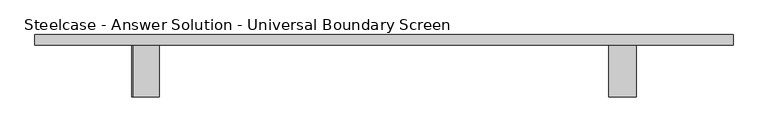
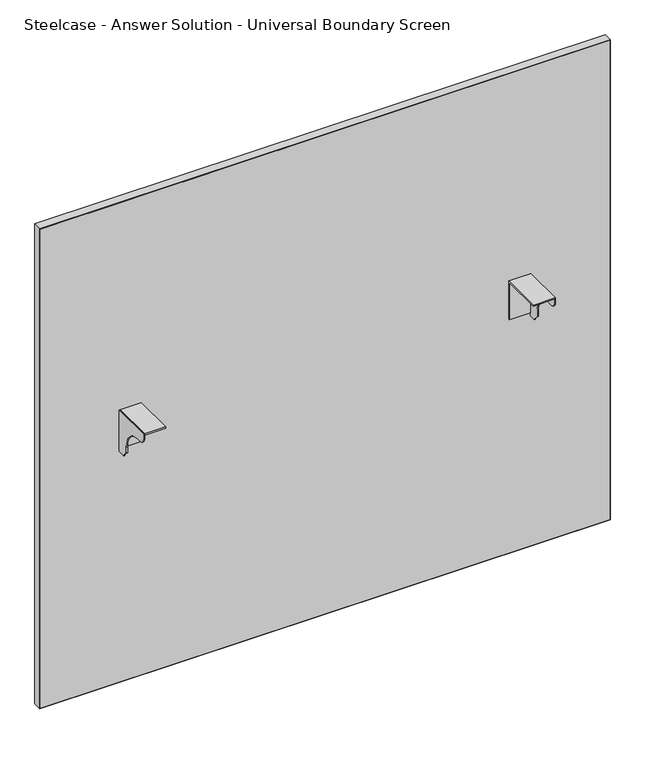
"""IFC4 building model written with IfcOpenShell, lengths in millimetres: furniture geometry, Steelcase - Answer Solution - Universal Boundary Screen : 48H x 54W."""

from ifc_helpers import new_model, si_unit, point, frame, frame_2d, origin, place, context, project, spatial, polyline, circle_curve, trimmed, segment, composite_curve, outline, extrude, source, transform, mapped, element, save


def steelcase_answer_solution_universal_boundary_screen_2fc7beb2(model_context):
    return source(origin(), model_context, "Body", "SweptSolid", [
        extrude(outline(polyline([(-103.1670434, 689.3558876), (-103.1670434, 692.1499758), (-1.5668826, 692.1499758), (-1.5668826, 595.5029317), (-4.1079736, 595.5029317), (-4.1079736, 689.3558876), (-103.1670434, 689.3558876)])), frame((972.0336711, 0.0, 0.0), z_axis=(1.0, 0.0, 0.0), x_axis=(0.0, 1.0, 0.0)), (0.0, 0.0, 1.0), 53.3444116),
        extrude(outline(composite_curve([segment(polyline([(-103.1670434, 679.2814802), (-103.1670434, 692.1499758), (-1.5668826, 692.1499758), (-1.5668826, 586.9634093), (-19.8232934, 586.9634093), (-19.8232934, 589.7574248), (-32.0458032, 601.9799346), (-32.0458032, 615.7814802)]), True, "CONTINUOUS"), segment(trimmed(circle_curve(frame_2d((-82.8458032, 615.7814802)), 50.8), [point((-32.0458032, 615.7814802))], [point((-82.8458032, 666.5814802))], True, "CARTESIAN"), True, "CONTINUOUS"), segment(polyline([(-82.8458032, 666.5814802), (-90.4670434, 666.5814802)]), True, "CONTINUOUS"), segment(trimmed(circle_curve(frame_2d((-90.4670434, 679.2814802)), 12.7), [point((-90.4670434, 666.5814802))], [point((-103.1670434, 679.2814802))], False, "CARTESIAN"), True, "CONTINUOUS")], self_intersect=False)), frame((1022.8328959, 0.0, 0.0), z_axis=(1.0, 0.0, 0.0), x_axis=(0.0, 1.0, 0.0)), (0.0, 0.0, 1.0), 2.5451868),
        extrude(outline(polyline([(-103.1670434, 689.3558876), (-103.1670434, 692.1499758), (-1.5668826, 692.1499758), (-1.5668826, 595.5029317), (-4.1079736, 595.5029317), (-4.1079736, 689.3558876), (-103.1670434, 689.3558876)])), frame((37.3232694, 0.0, 0.0), z_axis=(1.0, 0.0, 0.0), x_axis=(0.0, 1.0, 0.0)), (0.0, 0.0, 1.0), 50.7992249),
        extrude(outline(composite_curve([segment(polyline([(-103.1670434, 679.2814802), (-103.1670434, 692.1499758), (-1.5668826, 692.1499758), (-1.5668826, 586.9634093), (-19.8232934, 586.9634093), (-19.8232934, 589.7574248), (-32.0458032, 601.9799346), (-32.0458032, 615.7814802)]), True, "CONTINUOUS"), segment(trimmed(circle_curve(frame_2d((-82.8458032, 615.7814802)), 50.8), [point((-32.0458032, 615.7814802))], [point((-82.8458032, 666.5814802))], True, "CARTESIAN"), True, "CONTINUOUS"), segment(polyline([(-82.8458032, 666.5814802), (-90.4670434, 666.5814802)]), True, "CONTINUOUS"), segment(trimmed(circle_curve(frame_2d((-90.4670434, 679.2814802)), 12.7), [point((-90.4670434, 666.5814802))], [point((-103.1670434, 679.2814802))], False, "CARTESIAN"), True, "CONTINUOUS")], self_intersect=False)), frame((34.7780827, 0.0, 0.0), z_axis=(1.0, 0.0, 0.0), x_axis=(0.0, 1.0, 0.0)), (0.0, 0.0, 1.0), 2.5451868),
        extrude(outline(polyline([(-154.7293422, 18.9055112), (1214.8855076, 18.9055112), (1214.8855076, -1.5668826), (-154.7293422, -1.5668826), (-154.7293422, 18.9055112)])), frame((0.0, 0.0, 1.016), z_axis=(0.0, 0.0, 1.0), x_axis=(1.0, 0.0, 0.0)), (0.0, 0.0, 1.0), 1217.1914249),
        extrude(outline(polyline([(1219.2, 1215.8780827), (1219.2, -155.7219173), (0.0, -155.7219173), (0.0, 1215.8780827), (1219.2, 1215.8780827)]), holes=[polyline([(1218.2074249, 1214.8855076), (1.016, 1214.8855076), (1.016, -154.7293422), (1218.2074249, -154.7293422), (1218.2074249, 1214.8855076)])]), frame((0.0, -1.5668826, 0.0), z_axis=(0.0, 1.0, 0.0), x_axis=(0.0, 0.0, 1.0)), (0.0, 0.0, 1.0), 20.4723938),
    ])


if __name__ == "__main__":
    model = new_model("IFC4")
    model_context = context("Model", 3, world=origin())
    ifc_project = project(units=[si_unit("LENGTHUNIT", "METRE", prefix="MILLI")], contexts=[model_context])
    site = spatial("IfcSite", under=ifc_project)
    building = spatial("IfcBuilding", under=site)
    placement = place(None, origin())
    steelcase_answer_solution_universal_boundary_screen_shape = steelcase_answer_solution_universal_boundary_screen_2fc7beb2(model_context)
    element("IfcFurniture", 1, ObjectType="Steelcase - Answer Solution - Universal Boundary Screen : 48H x 54W", at=placement, inside=building, context=model_context, shape_type="MappedRepresentation", body=[
        mapped(steelcase_answer_solution_universal_boundary_screen_shape, transform((0.0, 0.0, 0.0), x_axis=(1.0, 0.0, 0.0), y_axis=(0.0, 1.0, 0.0), z_axis=(0.0, 0.0, 1.0))),
    ])
    save(model, "model.ifc")
